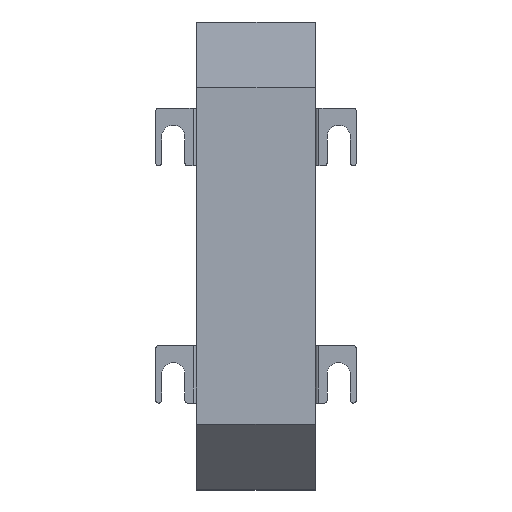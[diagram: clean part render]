
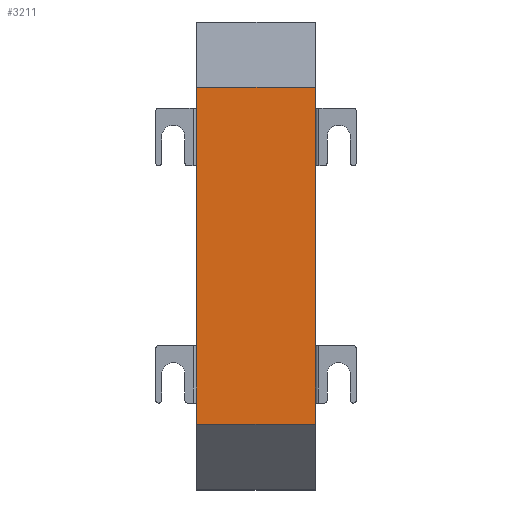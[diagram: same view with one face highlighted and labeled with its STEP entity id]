
A CAD part, top view. The second image highlights one B-rep face of the part: STEP entity #3211.
In plain terms, the highlighted planar face has unit normal (0, 0, 1) as drawn and (0, -1, 0) by its records, which use the part's own axes.
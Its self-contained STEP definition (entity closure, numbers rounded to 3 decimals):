
#60 = CARTESIAN_POINT ( 'NONE',  ( 0., 0., -16.5 ) ) ;
#185 = EDGE_LOOP ( 'NONE', ( #5981, #10909, #6472, #3601, #4292, #12311, #11829, #14894, #9191, #7148, #2310, #2351 ) ) ;
#195 = VERTEX_POINT ( 'NONE', #8631 ) ;
#401 = LINE ( 'NONE', #8399, #10154 ) ;
#434 = LINE ( 'NONE', #14338, #5706 ) ;
#687 = EDGE_CURVE ( 'NONE', #3236, #14802, #2111, .T. ) ;
#690 = CARTESIAN_POINT ( 'NONE',  ( 5.833, 0., 16.5 ) ) ;
#697 = DIRECTION ( 'NONE',  ( 1., 0., 0. ) ) ;
#723 = EDGE_CURVE ( 'NONE', #11778, #3188, #10121, .T. ) ;
#930 = CARTESIAN_POINT ( 'NONE',  ( 0., 0., 16.5 ) ) ;
#1211 = CARTESIAN_POINT ( 'NONE',  ( 0., 0., 16.5 ) ) ;
#1286 = VECTOR ( 'NONE', #12423, 1000. ) ;
#1736 = EDGE_CURVE ( 'NONE', #14802, #11778, #4729, .T. ) ;
#1820 = EDGE_CURVE ( 'NONE', #10330, #11822, #5796, .T. ) ;
#2111 = LINE ( 'NONE', #6478, #12940 ) ;
#2309 = CARTESIAN_POINT ( 'NONE',  ( 0., 0., -16.5 ) ) ;
#2310 = ORIENTED_EDGE ( 'NONE', *, *, #3974, .F. ) ;
#2351 = ORIENTED_EDGE ( 'NONE', *, *, #13108, .T. ) ;
#2396 = DIRECTION ( 'NONE',  ( 1., 0., 0. ) ) ;
#2515 = CARTESIAN_POINT ( 'NONE',  ( 87.833, 0., 16.5 ) ) ;
#2681 = VERTEX_POINT ( 'NONE', #13254 ) ;
#2701 = VERTEX_POINT ( 'NONE', #690 ) ;
#2900 = LINE ( 'NONE', #14553, #1286 ) ;
#3188 = VERTEX_POINT ( 'NONE', #5631 ) ;
#3211 = ADVANCED_FACE ( 'NONE', ( #3595 ), #14044, .F. ) ;
#3236 = VERTEX_POINT ( 'NONE', #11754 ) ;
#3279 = EDGE_CURVE ( 'NONE', #3188, #2681, #13734, .T. ) ;
#3308 = DIRECTION ( 'NONE',  ( 1., 0., 0. ) ) ;
#3368 = CARTESIAN_POINT ( 'NONE',  ( 0., 0., 16.5 ) ) ;
#3443 = CARTESIAN_POINT ( 'NONE',  ( 0., 0., -16.5 ) ) ;
#3534 = DIRECTION ( 'NONE',  ( 1., 0., 0. ) ) ;
#3595 = FACE_OUTER_BOUND ( 'NONE', #185, .T. ) ;
#3601 = ORIENTED_EDGE ( 'NONE', *, *, #723, .T. ) ;
#3766 = CARTESIAN_POINT ( 'NONE',  ( 21.833, 0., 16.5 ) ) ;
#3974 = EDGE_CURVE ( 'NONE', #6597, #2701, #401, .T. ) ;
#4045 = EDGE_CURVE ( 'NONE', #6117, #195, #5360, .T. ) ;
#4292 = ORIENTED_EDGE ( 'NONE', *, *, #3279, .T. ) ;
#4713 = DIRECTION ( 'NONE',  ( 0., 0., 1. ) ) ;
#4729 = LINE ( 'NONE', #60, #7408 ) ;
#4832 = VECTOR ( 'NONE', #697, 1000. ) ;
#4937 = VECTOR ( 'NONE', #2396, 1000. ) ;
#5360 = LINE ( 'NONE', #9983, #4832 ) ;
#5631 = CARTESIAN_POINT ( 'NONE',  ( 87.833, 0., -16.5 ) ) ;
#5706 = VECTOR ( 'NONE', #11676, 1000. ) ;
#5731 = VECTOR ( 'NONE', #12939, 1000. ) ;
#5796 = LINE ( 'NONE', #10483, #5886 ) ;
#5886 = VECTOR ( 'NONE', #12847, 1000. ) ;
#5906 = VECTOR ( 'NONE', #3308, 1000. ) ;
#5981 = ORIENTED_EDGE ( 'NONE', *, *, #12142, .T. ) ;
#6117 = VERTEX_POINT ( 'NONE', #2515 ) ;
#6472 = ORIENTED_EDGE ( 'NONE', *, *, #1736, .T. ) ;
#6478 = CARTESIAN_POINT ( 'NONE',  ( 0., 0., -16.5 ) ) ;
#6597 = VERTEX_POINT ( 'NONE', #930 ) ;
#6858 = CARTESIAN_POINT ( 'NONE',  ( 71.833, 0., -16.5 ) ) ;
#7113 = CARTESIAN_POINT ( 'NONE',  ( 0., 0., -16.5 ) ) ;
#7148 = ORIENTED_EDGE ( 'NONE', *, *, #10807, .F. ) ;
#7344 = EDGE_CURVE ( 'NONE', #11822, #6117, #9334, .T. ) ;
#7366 = CARTESIAN_POINT ( 'NONE',  ( 21.833, 0., -16.5 ) ) ;
#7408 = VECTOR ( 'NONE', #3534, 1000. ) ;
#7417 = DIRECTION ( 'NONE',  ( 1., 0., 0. ) ) ;
#7673 = VERTEX_POINT ( 'NONE', #7113 ) ;
#8399 = CARTESIAN_POINT ( 'NONE',  ( 0., 0., 16.5 ) ) ;
#8631 = CARTESIAN_POINT ( 'NONE',  ( 93.667, 0., 16.5 ) ) ;
#9063 = EDGE_CURVE ( 'NONE', #195, #2681, #2900, .T. ) ;
#9191 = ORIENTED_EDGE ( 'NONE', *, *, #1820, .F. ) ;
#9334 = LINE ( 'NONE', #13893, #4937 ) ;
#9591 = LINE ( 'NONE', #1211, #5731 ) ;
#9955 = VECTOR ( 'NONE', #12833, 1000. ) ;
#9983 = CARTESIAN_POINT ( 'NONE',  ( 0., 0., 16.5 ) ) ;
#10049 = CARTESIAN_POINT ( 'NONE',  ( 71.833, 0., 16.5 ) ) ;
#10053 = VECTOR ( 'NONE', #13650, 1000. ) ;
#10121 = LINE ( 'NONE', #14809, #5906 ) ;
#10154 = VECTOR ( 'NONE', #7417, 1000. ) ;
#10330 = VERTEX_POINT ( 'NONE', #3766 ) ;
#10483 = CARTESIAN_POINT ( 'NONE',  ( 0., 0., 16.5 ) ) ;
#10807 = EDGE_CURVE ( 'NONE', #2701, #10330, #434, .T. ) ;
#10909 = ORIENTED_EDGE ( 'NONE', *, *, #687, .T. ) ;
#11374 = LINE ( 'NONE', #2309, #10053 ) ;
#11676 = DIRECTION ( 'NONE',  ( 1., 0., 0. ) ) ;
#11754 = CARTESIAN_POINT ( 'NONE',  ( 5.833, 0., -16.5 ) ) ;
#11778 = VERTEX_POINT ( 'NONE', #6858 ) ;
#11822 = VERTEX_POINT ( 'NONE', #10049 ) ;
#11829 = ORIENTED_EDGE ( 'NONE', *, *, #4045, .F. ) ;
#12074 = AXIS2_PLACEMENT_3D ( 'NONE', #3368, #12598, #4713 ) ;
#12142 = EDGE_CURVE ( 'NONE', #7673, #3236, #11374, .T. ) ;
#12311 = ORIENTED_EDGE ( 'NONE', *, *, #9063, .F. ) ;
#12423 = DIRECTION ( 'NONE',  ( 0., 0., -1. ) ) ;
#12598 = DIRECTION ( 'NONE',  ( 0., 1., 0. ) ) ;
#12833 = DIRECTION ( 'NONE',  ( 1., 0., 0. ) ) ;
#12847 = DIRECTION ( 'NONE',  ( 1., 0., 0. ) ) ;
#12939 = DIRECTION ( 'NONE',  ( 0., 0., -1. ) ) ;
#12940 = VECTOR ( 'NONE', #13671, 1000. ) ;
#13108 = EDGE_CURVE ( 'NONE', #6597, #7673, #9591, .T. ) ;
#13254 = CARTESIAN_POINT ( 'NONE',  ( 93.667, 0., -16.5 ) ) ;
#13650 = DIRECTION ( 'NONE',  ( 1., 0., 0. ) ) ;
#13671 = DIRECTION ( 'NONE',  ( 1., 0., 0. ) ) ;
#13734 = LINE ( 'NONE', #3443, #9955 ) ;
#13893 = CARTESIAN_POINT ( 'NONE',  ( 0., 0., 16.5 ) ) ;
#14044 = PLANE ( 'NONE',  #12074 ) ;
#14338 = CARTESIAN_POINT ( 'NONE',  ( 0., 0., 16.5 ) ) ;
#14553 = CARTESIAN_POINT ( 'NONE',  ( 93.667, 0., 16.5 ) ) ;
#14802 = VERTEX_POINT ( 'NONE', #7366 ) ;
#14809 = CARTESIAN_POINT ( 'NONE',  ( 0., 0., -16.5 ) ) ;
#14894 = ORIENTED_EDGE ( 'NONE', *, *, #7344, .F. ) ;
